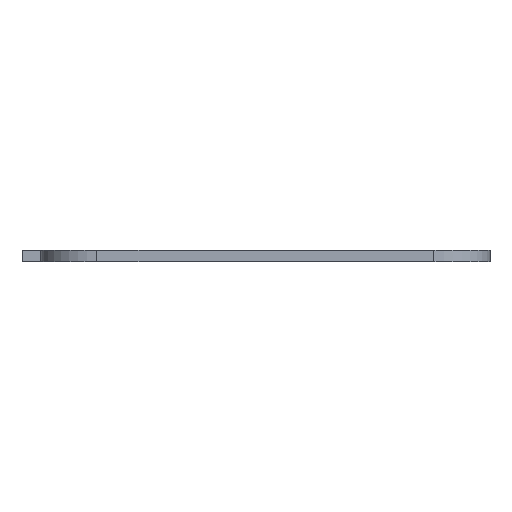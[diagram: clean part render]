
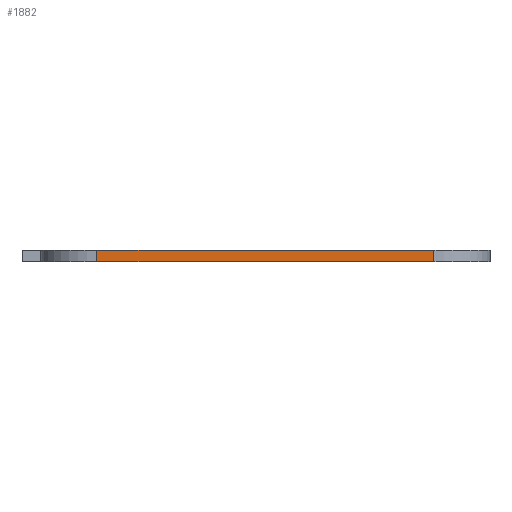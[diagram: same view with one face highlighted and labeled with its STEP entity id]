
A CAD part, left-side view. The second image highlights one B-rep face of the part: STEP entity #1882.
In plain terms, the highlighted planar face has unit normal (-1, 0, 0).
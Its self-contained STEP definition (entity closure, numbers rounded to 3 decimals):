
#33 = DIRECTION ( 'NONE',  ( -1., 0., 0. ) ) ;
#44 = FACE_OUTER_BOUND ( 'NONE', #2165, .T. ) ;
#55 = DIRECTION ( 'NONE',  ( 0., 0., 1. ) ) ;
#76 = CARTESIAN_POINT ( 'NONE',  ( -135., 10., -1.5 ) ) ;
#81 = ORIENTED_EDGE ( 'NONE', *, *, #2290, .F. ) ;
#109 = CARTESIAN_POINT ( 'NONE',  ( -135., -80., 1.5 ) ) ;
#125 = ORIENTED_EDGE ( 'NONE', *, *, #1972, .F. ) ;
#163 = VERTEX_POINT ( 'NONE', #1089 ) ;
#404 = CARTESIAN_POINT ( 'NONE',  ( -135., 0., -1.5 ) ) ;
#644 = DIRECTION ( 'NONE',  ( 0., 0., -1. ) ) ;
#673 = LINE ( 'NONE', #1962, #1582 ) ;
#687 = LINE ( 'NONE', #718, #1381 ) ;
#718 = CARTESIAN_POINT ( 'NONE',  ( -135., 0., 1.5 ) ) ;
#743 = EDGE_CURVE ( 'NONE', #163, #2320, #1764, .T. ) ;
#770 = ORIENTED_EDGE ( 'NONE', *, *, #2440, .T. ) ;
#951 = VECTOR ( 'NONE', #2328, 1000. ) ;
#1089 = CARTESIAN_POINT ( 'NONE',  ( -135., 10., 1.5 ) ) ;
#1176 = DIRECTION ( 'NONE',  ( 0., 1., 0. ) ) ;
#1185 = AXIS2_PLACEMENT_3D ( 'NONE', #2159, #33, #55 ) ;
#1189 = ORIENTED_EDGE ( 'NONE', *, *, #743, .T. ) ;
#1381 = VECTOR ( 'NONE', #2414, 1000. ) ;
#1582 = VECTOR ( 'NONE', #644, 1000. ) ;
#1755 = VERTEX_POINT ( 'NONE', #109 ) ;
#1764 = LINE ( 'NONE', #2153, #951 ) ;
#1821 = VECTOR ( 'NONE', #1176, 1000. ) ;
#1882 = ADVANCED_FACE ( 'NONE', ( #44 ), #2350, .T. ) ;
#1962 = CARTESIAN_POINT ( 'NONE',  ( -135., -80., 1.5 ) ) ;
#1972 = EDGE_CURVE ( 'NONE', #2079, #2320, #2148, .T. ) ;
#2079 = VERTEX_POINT ( 'NONE', #2169 ) ;
#2148 = LINE ( 'NONE', #404, #1821 ) ;
#2153 = CARTESIAN_POINT ( 'NONE',  ( -135., 10., 1.5 ) ) ;
#2159 = CARTESIAN_POINT ( 'NONE',  ( -135., 0., 1.5 ) ) ;
#2165 = EDGE_LOOP ( 'NONE', ( #125, #81, #770, #1189 ) ) ;
#2169 = CARTESIAN_POINT ( 'NONE',  ( -135., -80., -1.5 ) ) ;
#2290 = EDGE_CURVE ( 'NONE', #1755, #2079, #673, .T. ) ;
#2320 = VERTEX_POINT ( 'NONE', #76 ) ;
#2328 = DIRECTION ( 'NONE',  ( 0., 0., -1. ) ) ;
#2350 = PLANE ( 'NONE',  #1185 ) ;
#2414 = DIRECTION ( 'NONE',  ( 0., 1., 0. ) ) ;
#2440 = EDGE_CURVE ( 'NONE', #1755, #163, #687, .T. ) ;
